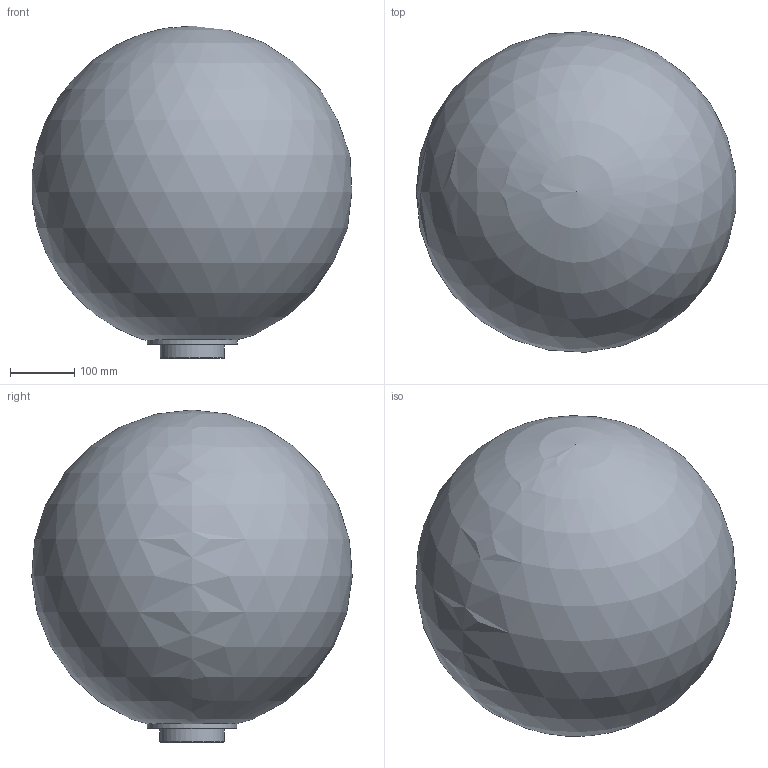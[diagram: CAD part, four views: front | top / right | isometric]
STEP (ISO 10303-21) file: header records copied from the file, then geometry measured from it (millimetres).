
FILE_DESCRIPTION(/* description */ (''),/* implementation_level */ '2;1');
FILE_NAME(/* name */ 'C:/Users/LukasGröber/GMS Cloud/Groeber Mannheim Lichtwerke - Dokumente/Marketing/Produkte/3D Daten/Snowball Stationär/Snowball 50 Stationär.step',/* time_stamp */ '2022-07-07T08:18:55+02:00',/* author */ (''),/* organization */ (''),/* preprocessor_version */ 'ST-DEVELOPER v19',/* originating_system */ 'Autodesk Translation Framework v11.7.0.108',/* authorisation */ '');
FILE_SCHEMA (('AUTOMOTIVE_DESIGN { 1 0 10303 214 3 1 1 }'));
Length unit declared in the file: millimetre
Products named in the file (3): Snowball 50 Stationär; Ring Stationär 30-60 (Modell); Snowball 500 Öffnung 80
Assembly tree (2 placements, depth 2):
  Snowball 50 Stationär
    Ring Stationär 30-60 (Modell)
    Snowball 500 Öffnung 80
Bounding box: 497.36 x 498.86 x 516.78 mm (x, y, z)
Volume: 3883423.8 mm3; surface area: 1564189.9 mm2
Topology: 2 solids, 2 shells, 16 faces, 32 edges, 20 vertices
Faces by surface type: plane 4, cylinder 4, cone 3, torus 3, sphere 2
Full cylindrical faces by diameter (mm): 80 x1, 94 x1, 100 x1, 140 x1
Entity records: 520 total; most frequent: DIRECTION 95, CARTESIAN_POINT 71, ORIENTED_EDGE 60, AXIS2_PLACEMENT_3D 44, EDGE_CURVE 30, CIRCLE 23, EDGE_LOOP 20, VERTEX_POINT 20
